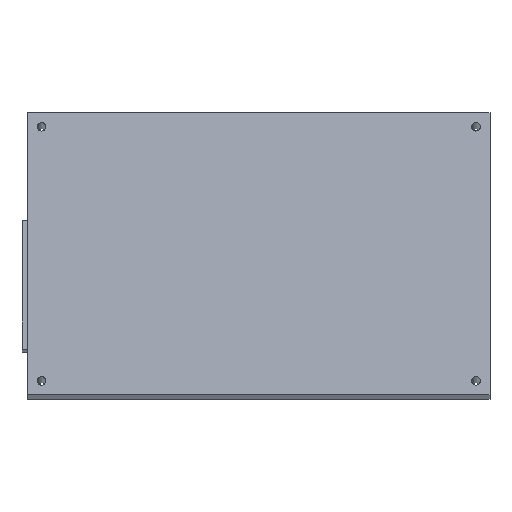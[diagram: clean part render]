
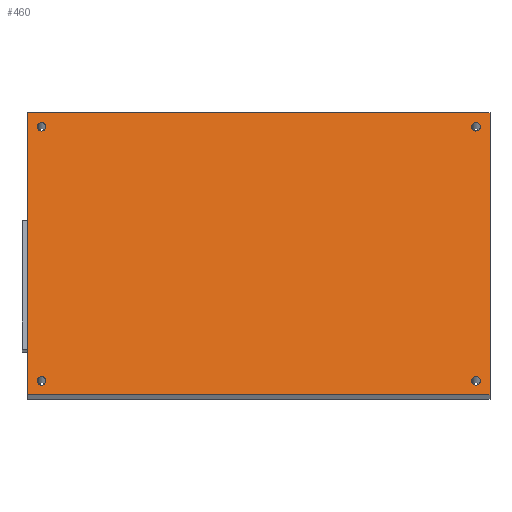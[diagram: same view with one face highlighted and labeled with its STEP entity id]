
A CAD part, front view. The second image highlights one B-rep face of the part: STEP entity #460.
In plain terms, the highlighted planar face has unit normal (0, -0.985, 0.174).
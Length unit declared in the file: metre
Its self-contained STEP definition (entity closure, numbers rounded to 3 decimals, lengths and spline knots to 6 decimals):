
#27=LINE('',#734,#67);
#30=LINE('',#740,#70);
#31=LINE('',#742,#71);
#32=LINE('',#744,#72);
#67=VECTOR('',#610,1.);
#70=VECTOR('',#615,1.);
#71=VECTOR('',#618,1.);
#72=VECTOR('',#619,1.);
#102=PLANE('',#517);
#164=ORIENTED_EDGE('',*,*,#227,.F.);
#165=ORIENTED_EDGE('',*,*,#231,.F.);
#166=ORIENTED_EDGE('',*,*,#235,.F.);
#167=ORIENTED_EDGE('',*,*,#239,.F.);
#168=ORIENTED_EDGE('',*,*,#255,.F.);
#169=ORIENTED_EDGE('',*,*,#259,.T.);
#170=ORIENTED_EDGE('',*,*,#260,.T.);
#171=ORIENTED_EDGE('',*,*,#258,.F.);
#227=EDGE_CURVE('',#283,#283,#325,.T.);
#231=EDGE_CURVE('',#287,#287,#329,.T.);
#235=EDGE_CURVE('',#291,#291,#333,.T.);
#239=EDGE_CURVE('',#295,#295,#337,.T.);
#255=EDGE_CURVE('',#307,#304,#27,.T.);
#258=EDGE_CURVE('',#304,#308,#30,.T.);
#259=EDGE_CURVE('',#307,#310,#31,.T.);
#260=EDGE_CURVE('',#310,#308,#32,.T.);
#283=VERTEX_POINT('',#668);
#287=VERTEX_POINT('',#679);
#291=VERTEX_POINT('',#690);
#295=VERTEX_POINT('',#701);
#304=VERTEX_POINT('',#727);
#307=VERTEX_POINT('',#733);
#308=VERTEX_POINT('',#737);
#310=VERTEX_POINT('',#743);
#325=CIRCLE('',#489,0.00155);
#329=CIRCLE('',#496,0.00155);
#333=CIRCLE('',#503,0.00155);
#337=CIRCLE('',#510,0.00155);
#368=EDGE_LOOP('',(#164));
#369=EDGE_LOOP('',(#165));
#370=EDGE_LOOP('',(#166));
#371=EDGE_LOOP('',(#167));
#372=EDGE_LOOP('',(#168,#169,#170,#171));
#416=FACE_BOUND('',#368,.T.);
#417=FACE_BOUND('',#369,.T.);
#418=FACE_BOUND('',#370,.T.);
#419=FACE_BOUND('',#371,.T.);
#420=FACE_BOUND('',#372,.T.);
#460=ADVANCED_FACE('',(#416,#417,#418,#419,#420),#102,.F.);
#489=AXIS2_PLACEMENT_3D('',#667,#541,#542);
#496=AXIS2_PLACEMENT_3D('',#678,#555,#556);
#503=AXIS2_PLACEMENT_3D('',#689,#569,#570);
#510=AXIS2_PLACEMENT_3D('',#700,#583,#584);
#517=AXIS2_PLACEMENT_3D('',#741,#616,#617);
#541=DIRECTION('',(0.,-0.985,0.174));
#542=DIRECTION('',(0.,0.174,0.985));
#555=DIRECTION('',(0.,-0.985,0.174));
#556=DIRECTION('',(0.,0.174,0.985));
#569=DIRECTION('',(0.,-0.985,0.174));
#570=DIRECTION('',(0.,0.174,0.985));
#583=DIRECTION('',(0.,-0.985,0.174));
#584=DIRECTION('',(0.,0.174,0.985));
#610=DIRECTION('',(0.,-0.174,-0.985));
#615=DIRECTION('',(-1.,0.,0.));
#616=DIRECTION('',(0.,0.985,-0.174));
#617=DIRECTION('',(-1.,0.,0.));
#618=DIRECTION('',(-1.,0.,0.));
#619=DIRECTION('',(0.,-0.174,-0.985));
#667=CARTESIAN_POINT('',(-0.141512,0.005526,1.389356));
#668=CARTESIAN_POINT('',(-0.141512,0.005795,1.390883));
#678=CARTESIAN_POINT('',(0.013378,0.005526,1.389356));
#679=CARTESIAN_POINT('',(0.013378,0.005795,1.390883));
#689=CARTESIAN_POINT('',(0.013378,0.021501,1.479958));
#690=CARTESIAN_POINT('',(0.013378,0.021771,1.481485));
#700=CARTESIAN_POINT('',(-0.141512,0.021501,1.479958));
#701=CARTESIAN_POINT('',(-0.141512,0.021771,1.481485));
#727=CARTESIAN_POINT('',(0.018383,0.004658,1.384432));
#733=CARTESIAN_POINT('',(0.018383,0.02237,1.484882));
#734=CARTESIAN_POINT('',(0.018383,0.02237,1.484882));
#737=CARTESIAN_POINT('',(-0.146517,0.004658,1.384432));
#740=CARTESIAN_POINT('',(0.018383,0.004658,1.384432));
#741=CARTESIAN_POINT('',(-0.064067,0.013514,1.434657));
#742=CARTESIAN_POINT('',(0.018383,0.02237,1.484882));
#743=CARTESIAN_POINT('',(-0.146517,0.02237,1.484882));
#744=CARTESIAN_POINT('',(-0.146517,0.02237,1.484882));
